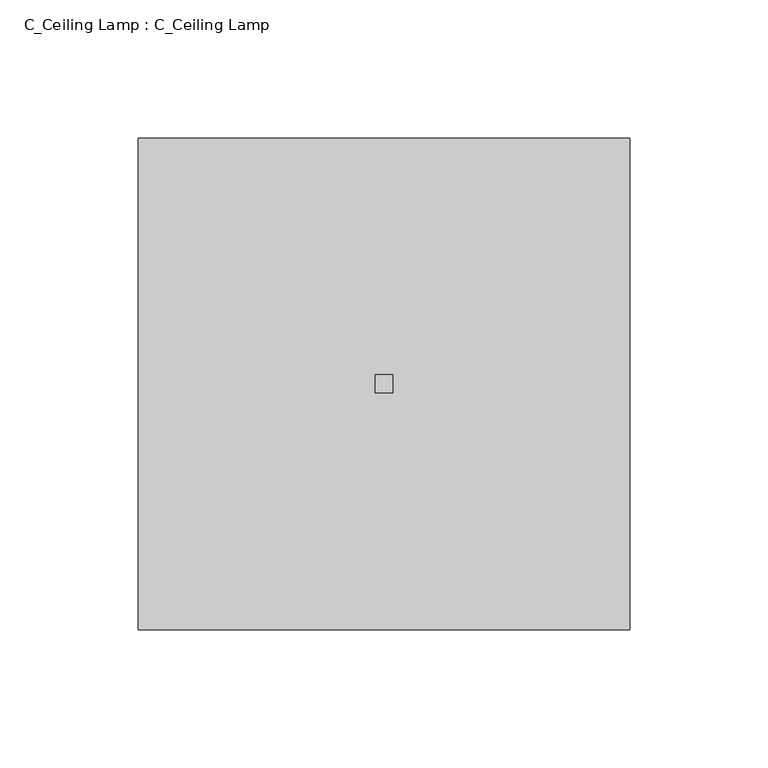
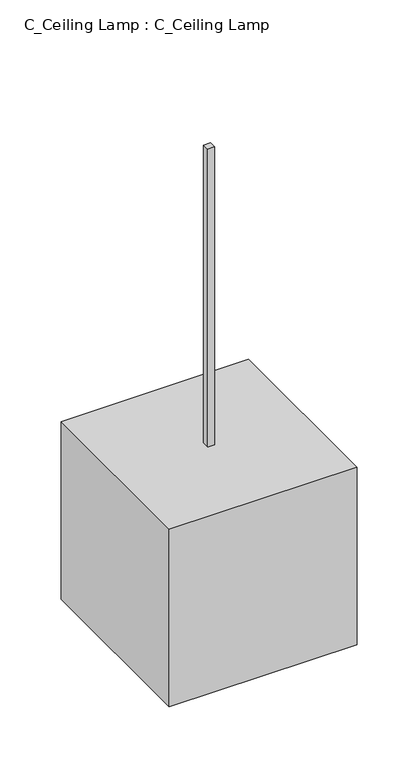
"""IFC4 building model written with IfcOpenShell, lengths in millimetres: light fixture geometry, C_Ceiling Lamp : C_Ceiling Lamp."""

import ifcopenshell
import ifcopenshell.guid

model = None  # the IFC model being written
_history = None  # IfcOwnerHistory: only IFC2X3 demands one
_inside = {}  # id of a spatial element -> (the spatial element, [elements in it])
_under = {}  # id of a project, library or spatial element -> (it, [spatial elements below it])
_declared = {}  # id of a project -> (the project, [libraries it declares])
_typed = {}  # id of a type object -> (the type object, [elements of that type])
_made_of = {}  # id of a material, layer set ... -> (it, [elements and type objects made of it])


def new_model(schema):
    """Start an empty IFC model of exactly this schema.

    Asked for "IFC4X3", IfcOpenShell would pick the latest addendum, in which some entities
    have other attributes; the version numbers below select the first issue.
    IFC2X3 requires an IfcOwnerHistory on every rooted entity: one is made here for all.
    """
    global model, _history
    if schema == "IFC4X3":
        model = ifcopenshell.file(schema_version=(4, 3, 0, 0))
    else:
        model = ifcopenshell.file(schema=schema)
    _inside.clear()
    _under.clear()
    _declared.clear()
    _typed.clear()
    _made_of.clear()
    _history = None
    if model.schema == "IFC2X3":
        org = make("IfcOrganization", Name="unknown")
        user = make(
            "IfcPersonAndOrganization",
            ThePerson=make("IfcPerson", FamilyName="unknown"),
            TheOrganization=org,
        )
        app = make(
            "IfcApplication",
            ApplicationDeveloper=org,
            Version="unknown",
            ApplicationFullName="unknown",
            ApplicationIdentifier="unknown",
        )
        _history = make(
            "IfcOwnerHistory",
            OwningUser=user,
            OwningApplication=app,
            ChangeAction="ADDED",
            CreationDate=0,
        )
    return model


def make(cls, **values):
    """One entity of the class cls with the attributes given. An attribute that is None is left unset."""
    return model.create_entity(
        cls, **{name: value for name, value in values.items() if value is not None}
    )


def rooted(cls, **values):
    """An entity with a GlobalId (a new one), such as an element, a storey or a relation."""
    return make(cls, GlobalId=ifcopenshell.guid.new(), OwnerHistory=_history, **values)


def si_unit(unit_type, name, prefix=None):
    """IfcSIUnit, for example si_unit("LENGTHUNIT", "METRE", prefix="MILLI")."""
    return make("IfcSIUnit", UnitType=unit_type, Prefix=prefix, Name=name)


def assignment(units):
    """IfcUnitAssignment: the units of a project."""
    return None if units is None else make("IfcUnitAssignment", Units=units)


def point(xyz):
    """IfcCartesianPoint."""
    return None if xyz is None else make("IfcCartesianPoint", Coordinates=xyz)


def direction(xyz):
    """IfcDirection."""
    return None if xyz is None else make("IfcDirection", DirectionRatios=xyz)


def frame(location, z_axis=None, x_axis=None):
    """IfcAxis2Placement3D, a coordinate frame: its origin and axes. An axis left out is left unset."""
    return make(
        "IfcAxis2Placement3D",
        Location=point(location),
        Axis=direction(z_axis),
        RefDirection=direction(x_axis),
    )


def origin():
    """The frame at (0, 0, 0) with its axes left unset."""
    return frame((0.0, 0.0, 0.0))


def place(relative_to, where):
    """IfcLocalPlacement: puts the frame where relative to a parent placement (None: the world)."""
    return make(
        "IfcLocalPlacement", PlacementRelTo=relative_to, RelativePlacement=where
    )


def context(
    kind, dimensions, precision=None, world=None, true_north=None, identifier=None
):
    """IfcGeometricRepresentationContext, for example the 3D "Model" context."""
    return make(
        "IfcGeometricRepresentationContext",
        ContextIdentifier=identifier,
        ContextType=kind,
        CoordinateSpaceDimension=dimensions,
        Precision=precision,
        WorldCoordinateSystem=world,
        TrueNorth=true_north,
    )


def project(units=None, contexts=None):
    """IfcProject with its units and contexts."""
    return rooted(
        "IfcProject",
        Name="project",
        RepresentationContexts=contexts,
        UnitsInContext=assignment(units),
    )


def spatial(cls, under=None, at=None, **own):
    """A site, building, storey or space (cls), placed at a placement, below another one or the project."""
    s = rooted(cls, ObjectPlacement=at, **own)
    if under is not None:
        _under.setdefault(under.id(), (under, []))[1].append(s)
    return s


def polyline(points):
    """IfcPolyline through the points."""
    return make("IfcPolyline", Points=[point(p) for p in points])


def outline(outer, holes=None, kind="AREA"):
    """IfcArbitraryClosedProfileDef: a profile drawn as a closed curve; with holes, ...WithVoids."""
    if holes is None:
        return make("IfcArbitraryClosedProfileDef", ProfileType=kind, OuterCurve=outer)
    return make(
        "IfcArbitraryProfileDefWithVoids",
        ProfileType=kind,
        OuterCurve=outer,
        InnerCurves=holes,
    )


def extrude(swept, where, along, depth):
    """IfcExtrudedAreaSolid: the profile swept, set in the frame where, extruded along a direction by depth."""
    return make(
        "IfcExtrudedAreaSolid",
        SweptArea=swept,
        Position=where,
        ExtrudedDirection=direction(along),
        Depth=depth,
    )


def shape(context_of_items, identifier, shape_type, items):
    """IfcShapeRepresentation: the items that make up one representation, for example the "Body"."""
    return make(
        "IfcShapeRepresentation",
        ContextOfItems=context_of_items,
        RepresentationIdentifier=identifier,
        RepresentationType=shape_type,
        Items=items,
    )


def source(mapping_origin, context_of_items, identifier, shape_type, items):
    """IfcRepresentationMap: a shape defined once, which mapped items show again and again."""
    return make(
        "IfcRepresentationMap",
        MappingOrigin=mapping_origin,
        MappedRepresentation=shape(context_of_items, identifier, shape_type, items),
    )


def transform(
    local_origin,
    x_axis=None,
    y_axis=None,
    z_axis=None,
    scale=None,
    scale2=None,
    scale3=None,
    uniform=True,
):
    """IfcCartesianTransformationOperator3D, or its non-uniform kind. x_axis, y_axis, z_axis: its Axis1, 2, 3."""
    if uniform:
        return make(
            "IfcCartesianTransformationOperator3D",
            Axis1=direction(x_axis),
            Axis2=direction(y_axis),
            LocalOrigin=point(local_origin),
            Scale=scale,
            Axis3=direction(z_axis),
        )
    return make(
        "IfcCartesianTransformationOperator3DnonUniform",
        Axis1=direction(x_axis),
        Axis2=direction(y_axis),
        LocalOrigin=point(local_origin),
        Scale=scale,
        Axis3=direction(z_axis),
        Scale2=scale2,
        Scale3=scale3,
    )


def mapped(mapping_source, mapping_target):
    """IfcMappedItem: shows the shape of a source again, moved by a transform."""
    return make(
        "IfcMappedItem", MappingSource=mapping_source, MappingTarget=mapping_target
    )


def made_of(thing, what):
    """Note that an element or type object is made of a material, layer set ...; save() writes the relation."""
    if what is not None:
        _made_of.setdefault(what.id(), (what, []))[1].append(thing)
    return thing


def element(
    cls,
    number,
    at=None,
    inside=None,
    cuts=None,
    type_object=None,
    material=None,
    context=None,
    identifier="Body",
    shape_type=None,
    held_by="IfcProductDefinitionShape",
    body=None,
    shapes=None,
    **own,
):
    """One element of the class cls, such as IfcWall. Its Tag is "e" and its number.

    at: its placement. inside: the storey or other place that contains it. cuts: it is an
    opening in that element (IfcRelVoidsElement). A single representation is given by context,
    identifier, shape_type and body (its items); several are given by shapes. held_by: the class
    of the entity that holds the representations. save() writes the other relations.
    """
    e = rooted(cls, Tag="e%d" % number, ObjectPlacement=at, **own)
    if body is not None:
        shapes = [shape(context, identifier, shape_type, body)]
    if shapes is not None:
        e.Representation = make(held_by, Representations=shapes)
    if inside is not None:
        _inside.setdefault(inside.id(), (inside, []))[1].append(e)
    if cuts is not None:
        rooted(
            "IfcRelVoidsElement", RelatingBuildingElement=cuts, RelatedOpeningElement=e
        )
    if type_object is not None:
        _typed.setdefault(type_object.id(), (type_object, []))[1].append(e)
    return made_of(e, material)


def aggregate(whole, parts):
    """IfcRelAggregates: a whole, such as a stair, and the parts it consists of."""
    return rooted("IfcRelAggregates", RelatingObject=whole, RelatedObjects=parts)


def save(model, path):
    """Write the relations noted so far, then the file.

    IfcRelAggregates (storeys below a building ...), IfcRelContainedInSpatialStructure (elements
    in a storey), IfcRelDefinesByType, IfcRelAssociatesMaterial and IfcRelDeclares: one each for
    every whole, place, type object, material and project.
    """
    for whole, parts in _under.values():
        aggregate(whole, parts)
    for where, things in _inside.values():
        rooted(
            "IfcRelContainedInSpatialStructure",
            RelatedElements=things,
            RelatingStructure=where,
        )
    for kind, things in _typed.values():
        rooted("IfcRelDefinesByType", RelatedObjects=things, RelatingType=kind)
    for what, things in _made_of.values():
        rooted("IfcRelAssociatesMaterial", RelatedObjects=things, RelatingMaterial=what)
    for by, libraries in _declared.values():
        rooted("IfcRelDeclares", RelatingContext=by, RelatedDefinitions=libraries)
    model.write(path)


def c_ceiling_lamp_c_ceiling_lamp_de8f2177(model_context):
    return source(origin(), model_context, "Body", "SweptSolid", [
        extrude(outline(polyline([(88.9, -88.9), (-88.9, -88.9), (-88.9, 88.9), (88.9, 88.9), (88.9, -88.9)])), frame((0.0, 0.0, 1962.15), z_axis=(0.0, 0.0, 1.0), x_axis=(1.0, 0.0, 0.0)), (0.0, 0.0, 1.0), 177.8),
        extrude(outline(polyline([(3.175, -3.262255), (-3.175, -3.262255), (-3.175, 3.262255), (3.175, 3.262255), (3.175, -3.262255)])), frame((0.0, 0.0, 2139.95), z_axis=(0.0, 0.0, 1.0), x_axis=(1.0, 0.0, 0.0)), (0.0, 0.0, 1.0), 298.45),
    ])


if __name__ == "__main__":
    model = new_model("IFC4")
    model_context = context("Model", 3, world=origin())
    ifc_project = project(units=[si_unit("LENGTHUNIT", "METRE", prefix="MILLI")], contexts=[model_context])
    site = spatial("IfcSite", under=ifc_project)
    building = spatial("IfcBuilding", under=site)
    placement = place(None, origin())
    c_ceiling_lamp_c_ceiling_lamp_shape = c_ceiling_lamp_c_ceiling_lamp_de8f2177(model_context)
    element("IfcLightFixture", 1, ObjectType="C_Ceiling Lamp : C_Ceiling Lamp", at=placement, inside=building, context=model_context, shape_type="MappedRepresentation", body=[
        mapped(c_ceiling_lamp_c_ceiling_lamp_shape, transform((0.0, 0.0, 0.0), x_axis=(1.0, 0.0, 0.0), y_axis=(0.0, 1.0, 0.0), z_axis=(0.0, 0.0, 1.0))),
    ])
    save(model, "model.ifc")
